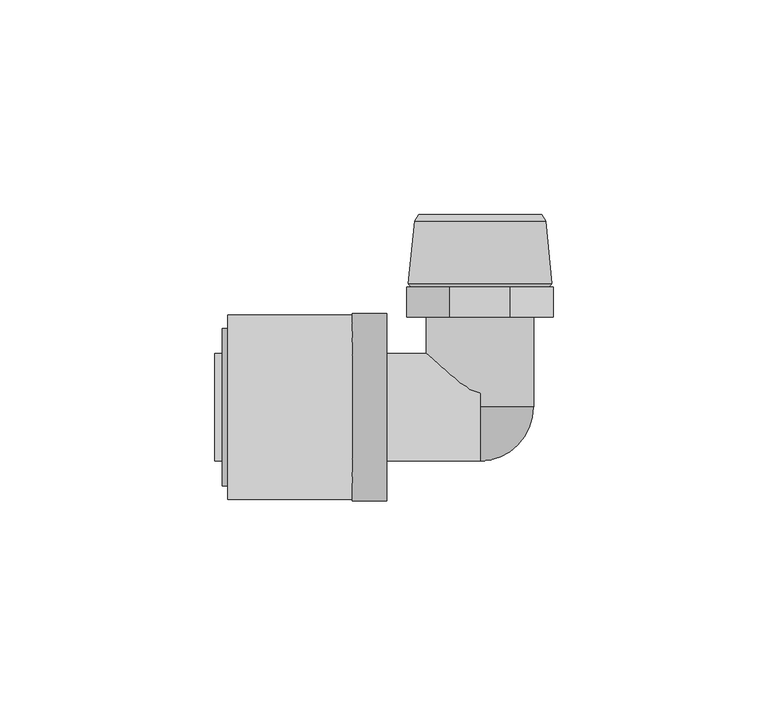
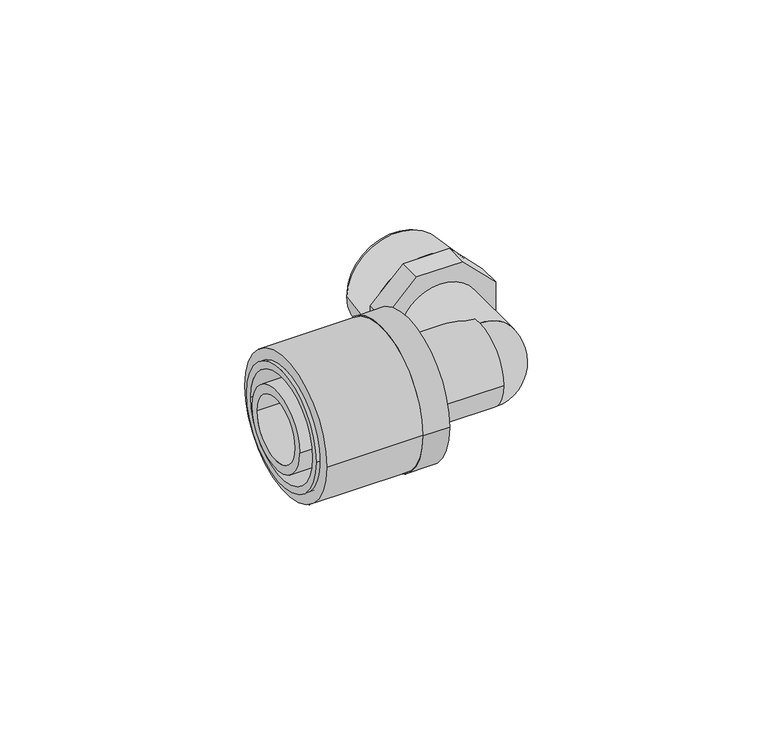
"""IFC4 building model written with IfcOpenShell, lengths in millimetres: pipe fitting geometry, FASTLOC_Elbow with male thread LX : FSL A internal CZ."""

from ifc_helpers import new_model, si_unit, point, frame, origin, origin_2d, place, context, project, spatial, polyline, circle_curve, ellipse_curve, trimmed, segment, composite_curve, outline, extrude, source, transform, mapped, element, save
from ifc_brep_helpers import plane_surface, cylinder_surface, revolved_surface, advanced_brep


def pipe_fitting_68aa3d98(model_context):
    return source(origin(), model_context, "Body", "SolidModel", [
        extrude(outline(composite_curve([segment(trimmed(circle_curve(origin_2d(), 21.5), [point((21.5, 0.0))], [point((-21.5, 0.0))], False, "CARTESIAN"), True, "CONTINUOUS"), segment(trimmed(circle_curve(origin_2d(), 21.5), [point((-21.5, 0.0))], [point((21.5, 0.0))], False, "CARTESIAN"), True, "CONTINUOUS")], self_intersect=False), holes=[composite_curve([segment(trimmed(circle_curve(origin_2d(), 16.85), [point((16.85, 0.0))], [point((-16.85, 0.0))], True, "CARTESIAN"), True, "CONTINUOUS"), segment(trimmed(circle_curve(origin_2d(), 16.85), [point((-16.85, 0.0))], [point((16.85, 0.0))], True, "CARTESIAN"), True, "CONTINUOUS")], self_intersect=False)]), frame((-58.7, 0.0, 0.0), z_axis=(1.0, 0.0, 0.0), x_axis=(0.0, 1.0, 0.0)), (0.0, 0.0, 1.0), 29.0),
        advanced_brep(
        [(-29.7, -21.8, 0.0), (-29.7, 21.8, 0.0), (-21.7, 21.8, 0.0), (-21.7, -21.8, 0.0), (-60.0, -18.35, 0.0), (-60.0, 18.35, 0.0), (-29.7, 18.35, 0.0), (-29.7, -18.35, 0.0), (-21.7, -16.2, 0.0), (-21.7, 16.2, 0.0), (-60.0, 16.2, 0.0), (-60.0, -16.2, 0.0)],
        [
            (0, 1, circle_curve(frame((-29.7, 0.0, 0.0), z_axis=(1.0, 0.0, 0.0), x_axis=(0.0, 1.0, 0.0)), 21.8)),
            (1, 2),
            (2, 3, circle_curve(frame((-21.7, 0.0, 0.0), z_axis=(-1.0, 0.0, 0.0), x_axis=(0.0, 1.0, 0.0)), 21.8)),
            (3, 0),
            (4, 5, circle_curve(frame((-60.0, 0.0, 0.0), z_axis=(1.0, 0.0, 0.0), x_axis=(0.0, 1.0, 0.0)), 18.35)),
            (5, 6),
            (6, 7, circle_curve(frame((-29.7, 0.0, 0.0), z_axis=(-1.0, 0.0, 0.0), x_axis=(0.0, 1.0, 0.0)), 18.35)),
            (7, 4),
            (8, 9, circle_curve(frame((-21.7, 0.0, 0.0), z_axis=(1.0, 0.0, 0.0), x_axis=(0.0, 1.0, 0.0)), 16.2)),
            (9, 10),
            (10, 11, circle_curve(frame((-60.0, 0.0, 0.0), z_axis=(-1.0, 0.0, 0.0), x_axis=(0.0, 1.0, 0.0)), 16.2)),
            (11, 8),
            (1, 0, circle_curve(frame((-29.7, 0.0, 0.0), z_axis=(1.0, 0.0, 0.0), x_axis=(0.0, -1.0, 0.0)), 21.8)),
            (3, 2, circle_curve(frame((-21.7, 0.0, 0.0), z_axis=(-1.0, 0.0, 0.0), x_axis=(0.0, -1.0, 0.0)), 21.8)),
            (6, 7, circle_curve(frame((-29.7, 0.0, 0.0), z_axis=(1.0, 0.0, 0.0), x_axis=(0.0, -1.0, 0.0)), 18.35)),
            (5, 4, circle_curve(frame((-60.0, 0.0, 0.0), z_axis=(1.0, 0.0, 0.0), x_axis=(0.0, -1.0, 0.0)), 18.35)),
            (10, 11, circle_curve(frame((-60.0, 0.0, 0.0), z_axis=(1.0, 0.0, 0.0), x_axis=(0.0, -1.0, 0.0)), 16.2)),
            (9, 8, circle_curve(frame((-21.7, 0.0, 0.0), z_axis=(1.0, 0.0, 0.0), x_axis=(0.0, -1.0, 0.0)), 16.2)),
        ],
        [
            cylinder_surface(frame((-21.7, 0.0, 0.0), z_axis=(-1.0, 0.0, 0.0), x_axis=(0.0, 1.0, 0.0)), 21.8),
            cylinder_surface(frame((-21.7, 0.0, 0.0), z_axis=(-1.0, 0.0, 0.0), x_axis=(0.0, 1.0, 0.0)), 18.35),
            revolved_surface(polyline([(-60.0, 16.2, 0.0), (-21.7, 16.2, 0.0)]), (-21.7, 0.0, 0.0), (-1.0, 0.0, 0.0)),
            cylinder_surface(frame((-21.7, 0.0, 0.0), z_axis=(-1.0, 0.0, 0.0), x_axis=(0.0, -1.0, 0.0)), 21.8),
            plane_surface(frame((-29.7, 0.0, 0.0), z_axis=(-1.0, 0.0, 0.0), x_axis=(0.0, -1.0, 0.0))),
            cylinder_surface(frame((-21.7, 0.0, 0.0), z_axis=(-1.0, 0.0, 0.0), x_axis=(0.0, -1.0, 0.0)), 18.35),
            plane_surface(frame((-60.0, 0.0, 0.0), z_axis=(-1.0, 0.0, 0.0), x_axis=(0.0, -1.0, 0.0))),
            revolved_surface(polyline([(-60.0, -16.2, 0.0), (-21.7, -16.2, 0.0)]), (-21.7, 0.0, 0.0), (-1.0, 0.0, 0.0)),
            plane_surface(frame((-21.7, 0.0, 0.0), z_axis=(1.0, 0.0, 0.0), x_axis=(0.0, -1.0, 0.0))),
        ],
        [
            (0, [[1, 2, 3, 4]]),
            (1, [[5, 6, 7, 8]]),
            (2, [[9, 10, 11, 12]]),
            (3, [[13, -4, 14, -2]]),
            (4, [[-13, -1], [15, -7]]),
            (5, [[16, -8, -15, -6]]),
            (6, [[-16, -5], [17, -11]]),
            (7, [[18, -12, -17, -10]]),
            (8, [[-14, -3], [-18, -9]]),
        ],
    ),
        advanced_brep(
        [(-29.7, 12.5, 0.0), (-29.7, -12.5, 0.0), (-61.7, -12.5, 0.0), (-61.7, 12.5, 0.0), (-26.7, 14.1, 0.0), (-26.7, -14.1, 0.0), (-29.7, -14.1, 0.0), (-29.7, 14.1, 0.0), (0.0, 12.5, 0.0), (0.0, -12.5, 0.0), (-26.7, -12.5, 0.0), (-26.7, 12.5, 0.0), (-61.7, 9.85, 0.0), (-61.7, -9.85, 0.0), (0.0, -9.85, 0.0), (0.0, 9.85, 0.0)],
        [
            (0, 1, circle_curve(frame((-29.7, 0.0, 0.0), z_axis=(-1.0, 0.0, 0.0), x_axis=(0.0, -1.0, 0.0)), 12.5)),
            (1, 2),
            (2, 3, circle_curve(frame((-61.7, 0.0, 0.0), z_axis=(1.0, 0.0, 0.0), x_axis=(0.0, -1.0, 0.0)), 12.5)),
            (3, 0),
            (4, 5, circle_curve(frame((-26.7, 0.0, 0.0), z_axis=(-1.0, 0.0, 0.0), x_axis=(0.0, -1.0, 0.0)), 14.1)),
            (5, 6),
            (6, 7, circle_curve(frame((-29.7, 0.0, 0.0), z_axis=(1.0, 0.0, 0.0), x_axis=(0.0, -1.0, 0.0)), 14.1)),
            (7, 4),
            (8, 9, circle_curve(frame((0.0, 0.0, 0.0), z_axis=(-1.0, 0.0, 0.0), x_axis=(0.0, -1.0, 0.0)), 12.5)),
            (9, 10),
            (10, 11, circle_curve(frame((-26.7, 0.0, 0.0), z_axis=(1.0, 0.0, 0.0), x_axis=(0.0, -1.0, 0.0)), 12.5)),
            (11, 8),
            (12, 13, circle_curve(frame((-61.7, 0.0, 0.0), z_axis=(-1.0, 0.0, 0.0), x_axis=(0.0, -1.0, 0.0)), 9.85)),
            (13, 14),
            (14, 15, circle_curve(frame((0.0, 0.0, 0.0), z_axis=(1.0, 0.0, 0.0), x_axis=(0.0, -1.0, 0.0)), 9.85)),
            (15, 12),
            (2, 3, circle_curve(frame((-61.7, 0.0, 0.0), z_axis=(-1.0, 0.0, 0.0), x_axis=(0.0, 1.0, 0.0)), 12.5)),
            (12, 13, circle_curve(frame((-61.7, 0.0, 0.0), z_axis=(1.0, 0.0, 0.0), x_axis=(0.0, 1.0, 0.0)), 9.85)),
            (1, 0, circle_curve(frame((-29.7, 0.0, 0.0), z_axis=(-1.0, 0.0, 0.0), x_axis=(0.0, 1.0, 0.0)), 12.5)),
            (6, 7, circle_curve(frame((-29.7, 0.0, 0.0), z_axis=(-1.0, 0.0, 0.0), x_axis=(0.0, 1.0, 0.0)), 14.1)),
            (5, 4, circle_curve(frame((-26.7, 0.0, 0.0), z_axis=(-1.0, 0.0, 0.0), x_axis=(0.0, 1.0, 0.0)), 14.1)),
            (10, 11, circle_curve(frame((-26.7, 0.0, 0.0), z_axis=(-1.0, 0.0, 0.0), x_axis=(0.0, 1.0, 0.0)), 12.5)),
            (9, 8, circle_curve(frame((0.0, 0.0, 0.0), z_axis=(-1.0, 0.0, 0.0), x_axis=(0.0, 1.0, 0.0)), 12.5)),
            (14, 15, circle_curve(frame((0.0, 0.0, 0.0), z_axis=(-1.0, 0.0, 0.0), x_axis=(0.0, 1.0, 0.0)), 9.85)),
        ],
        [
            cylinder_surface(frame((0.0, 0.0, 0.0), z_axis=(1.0, 0.0, 0.0), x_axis=(0.0, -1.0, 0.0)), 12.5),
            cylinder_surface(frame((0.0, 0.0, 0.0), z_axis=(1.0, 0.0, 0.0), x_axis=(0.0, -1.0, 0.0)), 14.1),
            revolved_surface(polyline([(0.0, -9.85, 0.0), (-61.7, -9.85, 0.0)]), (0.0, 0.0, 0.0), (1.0, 0.0, 0.0)),
            plane_surface(frame((-61.7, 0.0, 0.0), z_axis=(-1.0, 0.0, 0.0), x_axis=(0.0, 1.0, 0.0))),
            cylinder_surface(frame((0.0, 0.0, 0.0), z_axis=(1.0, 0.0, 0.0), x_axis=(0.0, 1.0, 0.0)), 12.5),
            plane_surface(frame((-29.7, 0.0, 0.0), z_axis=(-1.0, 0.0, 0.0), x_axis=(0.0, 1.0, 0.0))),
            cylinder_surface(frame((0.0, 0.0, 0.0), z_axis=(1.0, 0.0, 0.0), x_axis=(0.0, 1.0, 0.0)), 14.1),
            plane_surface(frame((-26.7, 0.0, 0.0), z_axis=(1.0, 0.0, 0.0), x_axis=(0.0, 1.0, 0.0))),
            plane_surface(frame((0.0, 0.0, 0.0), z_axis=(1.0, 0.0, 0.0), x_axis=(0.0, 1.0, 0.0))),
            revolved_surface(polyline([(0.0, 9.85, 0.0), (-61.7, 9.85, 0.0)]), (0.0, 0.0, 0.0), (1.0, 0.0, 0.0)),
        ],
        [
            (0, [[1, 2, 3, 4]]),
            (1, [[5, 6, 7, 8]]),
            (0, [[9, 10, 11, 12]]),
            (2, [[13, 14, 15, 16]]),
            (3, [[17, -3], [18, -13]]),
            (4, [[19, -4, -17, -2]]),
            (5, [[20, -7], [-19, -1]]),
            (6, [[21, -8, -20, -6]]),
            (7, [[-21, -5], [22, -11]]),
            (4, [[23, -12, -22, -10]]),
            (8, [[-23, -9], [24, -15]]),
            (9, [[-18, -16, -24, -14]]),
        ],
    ),
        advanced_brep(
        [(15.25, 43.3000007, 0.0), (-15.25, 43.3000007, 0.0), (-14.3, 44.8, 0.0), (14.3, 44.8, 0.0), (16.7, 28.7406902, 0.0), (-16.7, 28.7406902, 0.0), (16.1, 28.0, 0.0), (-16.1, 28.0, 0.0), (12.0, 29.1032803, 0.0), (-12.0, 29.1032803, 0.0), (-10.8967197, 28.0, 0.0), (10.8967197, 28.0, 0.0), (12.0, 44.8, 0.0), (-12.0, 44.8, 0.0)],
        [
            (0, 1, circle_curve(frame((0.0, 43.3000007, 0.0), z_axis=(0.0, 1.0, 0.0), x_axis=(-1.0, 0.0, 0.0)), 15.25)),
            (1, 2),
            (2, 3, circle_curve(frame((0.0, 44.8, 0.0), z_axis=(0.0, -1.0, 0.0), x_axis=(-1.0, 0.0, 0.0)), 14.3)),
            (3, 0),
            (4, 5, circle_curve(frame((0.0, 28.7406902, 0.0), z_axis=(0.0, 1.0, 0.0), x_axis=(-1.0, 0.0, 0.0)), 16.7)),
            (5, 1),
            (0, 4),
            (6, 7, circle_curve(frame((0.0, 28.0, 0.0), z_axis=(0.0, 1.0, 0.0), x_axis=(-1.0, 0.0, 0.0)), 16.1)),
            (7, 5),
            (4, 6),
            (8, 9, circle_curve(frame((0.0, 29.1032803, 0.0), z_axis=(0.0, 1.0, 0.0), x_axis=(-1.0, 0.0, 0.0)), 12.0)),
            (9, 10),
            (10, 11, circle_curve(frame((0.0, 28.0, 0.0), z_axis=(0.0, -1.0, 0.0), x_axis=(-1.0, 0.0, 0.0)), 10.8967197)),
            (11, 8),
            (12, 13, circle_curve(frame((0.0, 44.8, 0.0), z_axis=(0.0, 1.0, 0.0), x_axis=(-1.0, 0.0, 0.0)), 12.0)),
            (13, 9),
            (8, 12),
            (2, 3, circle_curve(frame((0.0, 44.8, 0.0), z_axis=(0.0, 1.0, 0.0), x_axis=(1.0, 0.0, 0.0)), 14.3)),
            (12, 13, circle_curve(frame((0.0, 44.8, 0.0), z_axis=(0.0, -1.0, 0.0), x_axis=(1.0, 0.0, 0.0)), 12.0)),
            (1, 0, circle_curve(frame((0.0, 43.3000007, 0.0), z_axis=(0.0, 1.0, 0.0), x_axis=(1.0, 0.0, 0.0)), 15.25)),
            (5, 4, circle_curve(frame((0.0, 28.7406902, 0.0), z_axis=(0.0, 1.0, 0.0), x_axis=(1.0, 0.0, 0.0)), 16.7)),
            (7, 6, circle_curve(frame((0.0, 28.0, 0.0), z_axis=(0.0, 1.0, 0.0), x_axis=(1.0, 0.0, 0.0)), 16.1)),
            (10, 11, circle_curve(frame((0.0, 28.0, 0.0), z_axis=(0.0, 1.0, 0.0), x_axis=(1.0, 0.0, 0.0)), 10.8967197)),
            (9, 8, circle_curve(frame((0.0, 29.1032803, 0.0), z_axis=(0.0, 1.0, 0.0), x_axis=(1.0, 0.0, 0.0)), 12.0)),
        ],
        [
            revolved_surface(polyline([(-14.3, 44.8, 0.0), (-15.25, 43.3000007, 0.0)]), (0.0, 21.0, 0.0), (0.0, -1.0, 0.0)),
            revolved_surface(polyline([(-15.25, 43.3000007, 0.0), (-16.7, 28.7406902, 0.0)]), (0.0, 21.0, 0.0), (0.0, -1.0, 0.0)),
            revolved_surface(polyline([(-16.7, 28.7406902, 0.0), (-16.1, 28.0, 0.0)]), (0.0, 21.0, 0.0), (0.0, -1.0, 0.0)),
            revolved_surface(polyline([(-10.8967197, 28.0, 0.0), (-12.0, 29.1032803, 0.0)]), (0.0, 21.0, 0.0), (0.0, -1.0, 0.0)),
            revolved_surface(polyline([(-12.0, 29.1032803, 0.0), (-12.0, 44.8, 0.0)]), (0.0, 21.0, 0.0), (0.0, -1.0, 0.0)),
            plane_surface(frame((0.0, 44.8, 0.0), z_axis=(0.0, 1.0, 0.0), x_axis=(1.0, 0.0, 0.0))),
            revolved_surface(polyline([(14.3, 44.8, 0.0), (15.25, 43.3000007, 0.0)]), (0.0, 21.0, 0.0), (0.0, -1.0, 0.0)),
            revolved_surface(polyline([(15.25, 43.3000007, 0.0), (16.7, 28.7406902, 0.0)]), (0.0, 21.0, 0.0), (0.0, -1.0, 0.0)),
            revolved_surface(polyline([(16.7, 28.7406902, 0.0), (16.1, 28.0, 0.0)]), (0.0, 21.0, 0.0), (0.0, -1.0, 0.0)),
            plane_surface(frame((0.0, 28.0, 0.0), z_axis=(0.0, -1.0, 0.0), x_axis=(1.0, 0.0, 0.0))),
            revolved_surface(polyline([(10.8967197, 28.0, 0.0), (12.0, 29.1032803, 0.0)]), (0.0, 21.0, 0.0), (0.0, -1.0, 0.0)),
            revolved_surface(polyline([(12.0, 29.1032803, 0.0), (12.0, 44.8, 0.0)]), (0.0, 21.0, 0.0), (0.0, -1.0, 0.0)),
        ],
        [
            (0, [[1, 2, 3, 4]]),
            (1, [[5, 6, -1, 7]]),
            (2, [[8, 9, -5, 10]]),
            (3, [[11, 12, 13, 14]]),
            (4, [[15, 16, -11, 17]]),
            (5, [[18, -3], [19, -15]]),
            (6, [[20, -4, -18, -2]]),
            (7, [[21, -7, -20, -6]]),
            (8, [[22, -10, -21, -9]]),
            (9, [[-22, -8], [23, -13]]),
            (10, [[24, -14, -23, -12]]),
            (11, [[-19, -17, -24, -16]]),
        ],
    ),
        advanced_brep(
        [(0.0, -12.5, 0.0), (0.0, 0.0, 12.5), (0.0, 0.0, 9.85), (0.0, -9.85, 0.0), (0.0, 0.0, -9.85), (0.0, 0.0, -12.5)],
        [
            (0, 1, circle_curve(frame((0.0, 0.0, 0.0), z_axis=(-1.0, 0.0, 0.0), x_axis=(0.0, 0.0, 1.0)), 12.5)),
            (1, 2),
            (2, 3, circle_curve(frame((0.0, 0.0, 0.0), z_axis=(1.0, 0.0, 0.0), x_axis=(0.0, 0.0, 1.0)), 9.85)),
            (3, 0),
            (3, 4, circle_curve(frame((0.0, 0.0, 0.0), z_axis=(1.0, 0.0, 0.0), x_axis=(0.0, 0.0, -1.0)), 9.85)),
            (4, 5),
            (5, 0, circle_curve(frame((0.0, 0.0, 0.0), z_axis=(-1.0, 0.0, 0.0), x_axis=(0.0, 0.0, -1.0)), 12.5)),
            (5, 1, circle_curve(frame((0.0, 0.0, 0.0), z_axis=(0.0, -1.0, 0.0), x_axis=(0.0, 0.0, 1.0)), 12.5)),
            (4, 2, circle_curve(frame((0.0, 0.0, 0.0), z_axis=(0.0, -1.0, 0.0), x_axis=(0.0, 0.0, 1.0)), 9.85)),
        ],
        [
            plane_surface(frame((0.0, 0.0, 0.0), z_axis=(-1.0, 0.0, 0.0), x_axis=(0.0, 0.0, 1.0))),
            plane_surface(frame((0.0, 0.0, 0.0), z_axis=(-1.0, 0.0, 0.0), x_axis=(0.0, 0.0, -1.0))),
            revolved_surface(trimmed(ellipse_curve(frame((0.0, 0.0, 0.0), z_axis=(-1.0, 0.0, 0.0), x_axis=(0.0, 0.0, 1.0)), 12.5, 12.5), [point((0.0, -12.5, 0.0))], [point((0.0, 0.0, 12.5))], True, "CARTESIAN"), (0.0, 0.0, 0.0), (0.0, 1.0, 0.0)),
            plane_surface(frame((0.0, 0.0, 0.0), z_axis=(0.0, 1.0, 0.0), x_axis=(0.0, 0.0, 1.0))),
            revolved_surface(trimmed(ellipse_curve(frame((0.0, 0.0, 0.0), z_axis=(1.0, 0.0, 0.0), x_axis=(0.0, 0.0, 1.0)), 9.85, 9.85), [point((0.0, 0.0, 9.85))], [point((0.0, -9.85, 0.0))], True, "CARTESIAN"), (0.0, 0.0, 0.0), (0.0, 1.0, 0.0)),
        ],
        [
            (0, [[1, 2, 3, 4]]),
            (1, [[5, 6, 7, -4]]),
            (2, [[8, -1, -7]]),
            (3, [[9, -2, -8, -6]]),
            (4, [[-3, -9, -5]]),
        ],
    ),
        extrude(outline(polyline([(-17.0, 7.0416306), (-7.0416306, 17.0), (7.0416306, 17.0), (17.0, 7.0416306), (17.0, -7.0416306), (7.0416306, -17.0), (-7.0416306, -17.0), (-17.0, -7.0416306), (-17.0, 7.0416306)])), frame((0.0, 21.0, 0.0), z_axis=(0.0, 1.0, 0.0), x_axis=(0.0, 0.0, 1.0)), (0.0, 0.0, 1.0), 7.0),
        extrude(outline(composite_curve([segment(trimmed(circle_curve(origin_2d(), 12.5), [point((0.0, -12.5))], [point((0.0, 12.5))], False, "CARTESIAN"), True, "CONTINUOUS"), segment(trimmed(circle_curve(origin_2d(), 12.5), [point((0.0, 12.5))], [point((0.0, -12.5))], False, "CARTESIAN"), True, "CONTINUOUS")], self_intersect=False), holes=[composite_curve([segment(trimmed(circle_curve(origin_2d(), 9.85), [point((0.0, -9.85))], [point((0.0, 9.85))], True, "CARTESIAN"), True, "CONTINUOUS"), segment(trimmed(circle_curve(origin_2d(), 9.85), [point((0.0, 9.85))], [point((0.0, -9.85))], True, "CARTESIAN"), True, "CONTINUOUS")], self_intersect=False)]), frame((0.0, 0.0, 0.0), z_axis=(0.0, 1.0, 0.0), x_axis=(0.0, 0.0, 1.0)), (0.0, 0.0, 1.0), 21.0),
    ])


if __name__ == "__main__":
    model = new_model("IFC4")
    model_context = context("Model", 3, world=origin())
    ifc_project = project(units=[si_unit("LENGTHUNIT", "METRE", prefix="MILLI")], contexts=[model_context])
    site = spatial("IfcSite", under=ifc_project)
    building = spatial("IfcBuilding", under=site)
    placement = place(None, origin())
    pipe_fitting_shape = pipe_fitting_68aa3d98(model_context)
    element("IfcPipeFitting", 1, ObjectType="FASTLOC_Elbow with male thread LX : FSL A internal CZ", at=placement, inside=building, context=model_context, shape_type="MappedRepresentation", body=[
        mapped(pipe_fitting_shape, transform((0.0, 0.0, 0.0), x_axis=(1.0, 0.0, 0.0), y_axis=(0.0, 1.0, 0.0), z_axis=(0.0, 0.0, 1.0))),
    ])
    save(model, "model.ifc")
